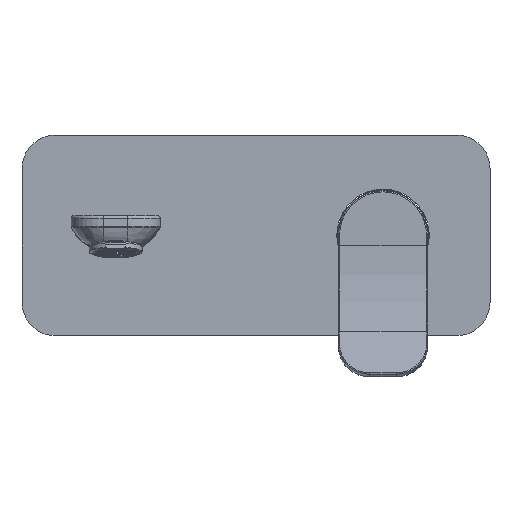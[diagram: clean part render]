
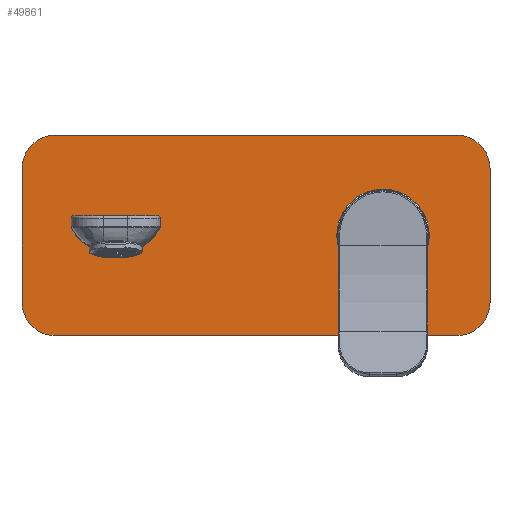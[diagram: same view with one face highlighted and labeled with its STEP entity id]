
A CAD part, top view. The second image highlights one B-rep face of the part: STEP entity #49861.
In plain terms, the highlighted planar face has unit normal (0, 0, 1).
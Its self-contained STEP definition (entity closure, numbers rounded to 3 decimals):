
#10953=CARTESIAN_POINT('',(87.5,64.5,82.05));
#10954=DIRECTION('',(0.,0.,1.));
#10955=DIRECTION('',(1.,0.,0.));
#10956=AXIS2_PLACEMENT_3D('',#10953,#10954,#10955);
#10958=DIRECTION('',(0.,-1.,0.));
#10959=VECTOR('',#10958,60.);
#10960=CARTESIAN_POINT('',(102.5,64.5,82.05));
#10961=LINE('',#10960,#10959);
#10962=CARTESIAN_POINT('',(87.5,4.5,82.05));
#10963=DIRECTION('',(0.,0.,1.));
#10964=DIRECTION('',(0.,-1.,0.));
#10965=AXIS2_PLACEMENT_3D('',#10962,#10963,#10964);
#10967=DIRECTION('',(-1.,0.,0.));
#10968=VECTOR('',#10967,180.);
#10969=CARTESIAN_POINT('',(87.5,-10.5,82.05));
#10970=LINE('',#10969,#10968);
#10971=CARTESIAN_POINT('',(-92.5,4.5,82.05));
#10972=DIRECTION('',(0.,0.,1.));
#10973=DIRECTION('',(-1.,0.,0.));
#10974=AXIS2_PLACEMENT_3D('',#10971,#10972,#10973);
#10976=DIRECTION('',(0.,1.,0.));
#10977=VECTOR('',#10976,60.);
#10978=CARTESIAN_POINT('',(-107.5,4.5,82.05));
#10979=LINE('',#10978,#10977);
#10980=CARTESIAN_POINT('',(-92.5,64.5,82.05));
#10981=DIRECTION('',(0.,0.,1.));
#10982=DIRECTION('',(0.,1.,0.));
#10983=AXIS2_PLACEMENT_3D('',#10980,#10981,#10982);
#10985=DIRECTION('',(1.,0.,0.));
#10986=VECTOR('',#10985,180.);
#10987=CARTESIAN_POINT('',(-92.5,79.5,82.05));
#10988=LINE('',#10987,#10986);
#10989=CARTESIAN_POINT('',(54.5,34.5,82.05));
#10990=DIRECTION('',(0.,0.,1.));
#10991=DIRECTION('',(0.,1.,0.));
#10992=AXIS2_PLACEMENT_3D('',#10989,#10990,#10991);
#10994=CARTESIAN_POINT('',(54.5,34.5,82.05));
#10995=DIRECTION('',(0.,0.,1.));
#10996=DIRECTION('',(0.,-1.,0.));
#10997=AXIS2_PLACEMENT_3D('',#10994,#10995,#10996);
#10999=DIRECTION('',(0.,1.,0.));
#11000=VECTOR('',#10999,3.748);
#11001=CARTESIAN_POINT('',(-45.55,38.252,82.05));
#11002=LINE('',#11001,#11000);
#11003=CARTESIAN_POINT('',(-46.55,42.,82.05));
#11004=DIRECTION('',(0.,0.,-1.));
#11005=DIRECTION('',(0.,1.,0.));
#11006=AXIS2_PLACEMENT_3D('',#11003,#11004,#11005);
#11008=DIRECTION('',(-1.,0.,0.));
#11009=VECTOR('',#11008,37.9);
#11010=CARTESIAN_POINT('',(-46.55,43.,82.05));
#11011=LINE('',#11010,#11009);
#11012=CARTESIAN_POINT('',(-84.45,42.,82.05));
#11013=DIRECTION('',(0.,0.,1.));
#11014=DIRECTION('',(0.,1.,0.));
#11015=AXIS2_PLACEMENT_3D('',#11012,#11013,#11014);
#11017=DIRECTION('',(0.,-1.,0.));
#11018=VECTOR('',#11017,3.748);
#11019=CARTESIAN_POINT('',(-85.45,42.,82.05));
#11020=LINE('',#11019,#11018);
#11021=CARTESIAN_POINT('',(-85.45,38.252,82.05));
#11022=CARTESIAN_POINT('',(-85.45,38.21,82.05));
#11023=CARTESIAN_POINT('',(-85.445,38.127,82.05));
#11024=CARTESIAN_POINT('',(-85.422,38.004,82.05));
#11025=CARTESIAN_POINT('',(-85.383,37.885,82.05));
#11026=CARTESIAN_POINT('',(-85.348,37.81,82.05));
#11027=CARTESIAN_POINT('',(-85.328,37.773,82.05));
#11029=CARTESIAN_POINT('',(-85.328,37.773,82.05));
#11030=CARTESIAN_POINT('',(-84.363,36.003,
82.05));
#11031=CARTESIAN_POINT('',(-81.954,32.722,
82.05));
#11032=CARTESIAN_POINT('',(-77.167,28.933,
82.05));
#11033=CARTESIAN_POINT('',(-71.548,26.544,
82.05));
#11034=CARTESIAN_POINT('',(-65.5,25.728,
82.05));
#11035=CARTESIAN_POINT('',(-59.452,26.544,
82.05));
#11036=CARTESIAN_POINT('',(-53.833,28.933,
82.05));
#11037=CARTESIAN_POINT('',(-49.046,32.722,
82.05));
#11038=CARTESIAN_POINT('',(-46.637,36.003,
82.05));
#11039=CARTESIAN_POINT('',(-45.672,37.773,82.05));
#11041=CARTESIAN_POINT('',(-45.672,37.773,82.05));
#11042=CARTESIAN_POINT('',(-45.652,37.81,82.05));
#11043=CARTESIAN_POINT('',(-45.617,37.885,82.05));
#11044=CARTESIAN_POINT('',(-45.578,38.004,82.05));
#11045=CARTESIAN_POINT('',(-45.555,38.127,82.05));
#11046=CARTESIAN_POINT('',(-45.55,38.21,82.05));
#11047=CARTESIAN_POINT('',(-45.55,38.252,82.05));
#40342=CARTESIAN_POINT('',(54.5,55.25,82.05));
#40343=CARTESIAN_POINT('',(54.5,13.75,82.05));
#40344=VERTEX_POINT('',#40342);
#40345=VERTEX_POINT('',#40343);
#40408=CARTESIAN_POINT('',(102.5,64.5,82.05));
#40409=CARTESIAN_POINT('',(87.5,79.5,82.05));
#40410=VERTEX_POINT('',#40408);
#40411=VERTEX_POINT('',#40409);
#40416=CARTESIAN_POINT('',(87.5,-10.5,82.05));
#40417=CARTESIAN_POINT('',(102.5,4.5,82.05));
#40418=VERTEX_POINT('',#40416);
#40419=VERTEX_POINT('',#40417);
#40424=CARTESIAN_POINT('',(-92.5,79.5,82.05));
#40425=CARTESIAN_POINT('',(-107.5,64.5,82.05));
#40426=VERTEX_POINT('',#40424);
#40427=VERTEX_POINT('',#40425);
#40432=CARTESIAN_POINT('',(-107.5,4.5,82.05));
#40433=CARTESIAN_POINT('',(-92.5,-10.5,82.05));
#40434=VERTEX_POINT('',#40432);
#40435=VERTEX_POINT('',#40433);
#40558=CARTESIAN_POINT('',(-45.55,38.252,82.05));
#40559=CARTESIAN_POINT('',(-45.55,42.,82.05));
#40560=VERTEX_POINT('',#40558);
#40561=VERTEX_POINT('',#40559);
#40562=CARTESIAN_POINT('',(-46.55,43.,82.05));
#40563=CARTESIAN_POINT('',(-84.45,43.,82.05));
#40564=VERTEX_POINT('',#40562);
#40565=VERTEX_POINT('',#40563);
#40566=CARTESIAN_POINT('',(-85.45,42.,82.05));
#40567=CARTESIAN_POINT('',(-85.45,38.252,82.05));
#40568=VERTEX_POINT('',#40566);
#40569=VERTEX_POINT('',#40567);
#40570=VERTEX_POINT('',#11029);
#40571=VERTEX_POINT('',#11039);
#49816=CARTESIAN_POINT('',(-2.5,34.5,82.05));
#49817=DIRECTION('',(0.,0.,-1.));
#49818=DIRECTION('',(0.,1.,0.));
#49819=AXIS2_PLACEMENT_3D('',#49816,#49817,#49818);
#49820=PLANE('',#49819);
#49822=ORIENTED_EDGE('',*,*,#49821,.F.);
#49824=ORIENTED_EDGE('',*,*,#49823,.T.);
#49826=ORIENTED_EDGE('',*,*,#49825,.F.);
#49828=ORIENTED_EDGE('',*,*,#49827,.T.);
#49830=ORIENTED_EDGE('',*,*,#49829,.F.);
#49832=ORIENTED_EDGE('',*,*,#49831,.T.);
#49834=ORIENTED_EDGE('',*,*,#49833,.F.);
#49836=ORIENTED_EDGE('',*,*,#49835,.T.);
#49837=EDGE_LOOP('',(#49822,#49824,#49826,#49828,#49830,#49832,#49834,#49836));
#49838=FACE_OUTER_BOUND('',#49837,.F.);
#49840=ORIENTED_EDGE('',*,*,#49839,.T.);
#49842=ORIENTED_EDGE('',*,*,#49841,.T.);
#49843=EDGE_LOOP('',(#49840,#49842));
#49844=FACE_BOUND('',#49843,.F.);
#49846=ORIENTED_EDGE('',*,*,#49845,.T.);
#49848=ORIENTED_EDGE('',*,*,#49847,.F.);
#49850=ORIENTED_EDGE('',*,*,#49849,.T.);
#49852=ORIENTED_EDGE('',*,*,#49851,.T.);
#49854=ORIENTED_EDGE('',*,*,#49853,.T.);
#49855=ORIENTED_EDGE('',*,*,#49806,.T.);
#49856=ORIENTED_EDGE('',*,*,#49717,.T.);
#49858=ORIENTED_EDGE('',*,*,#49857,.T.);
#49859=EDGE_LOOP('',(#49846,#49848,#49850,#49852,#49854,#49855,#49856,#49858));
#49860=FACE_BOUND('',#49859,.F.);
#49861=ADVANCED_FACE('',(#49838,#49844,#49860),#49820,.F.);
#10957=CIRCLE('',#10956,15.);
#10966=CIRCLE('',#10965,15.);
#10975=CIRCLE('',#10974,15.);
#10984=CIRCLE('',#10983,15.);
#10993=CIRCLE('',#10992,20.75);
#10998=CIRCLE('',#10997,20.75);
#11007=CIRCLE('',#11006,1.);
#11016=CIRCLE('',#11015,1.);
#11028=B_SPLINE_CURVE_WITH_KNOTS('',3,(#11021,#11022,#11023,#11024,#11025,
#11026,#11027),.UNSPECIFIED.,.F.,.F.,(4,1,1,1,4),(0.,0.25,0.5,0.75,
1.),.UNSPECIFIED.);
#11040=B_SPLINE_CURVE_WITH_KNOTS('',3,(#11029,#11030,#11031,#11032,#11033,
#11034,#11035,#11036,#11037,#11038,#11039),.UNSPECIFIED.,.F.,.F.,(4,1,1,1,1,1,1,
1,4),(0.,0.125,0.25,0.375,0.5,0.625,0.75,0.875,1.),
.UNSPECIFIED.);
#11048=B_SPLINE_CURVE_WITH_KNOTS('',3,(#11041,#11042,#11043,#11044,#11045,
#11046,#11047),.UNSPECIFIED.,.F.,.F.,(4,1,1,1,4),(0.,0.25,0.5,0.75,
1.),.UNSPECIFIED.);
#49717=EDGE_CURVE('',#40570,#40571,#11040,.T.);
#49806=EDGE_CURVE('',#40569,#40570,#11028,.T.);
#49821=EDGE_CURVE('',#40410,#40411,#10957,.T.);
#49823=EDGE_CURVE('',#40410,#40419,#10961,.T.);
#49825=EDGE_CURVE('',#40418,#40419,#10966,.T.);
#49827=EDGE_CURVE('',#40418,#40435,#10970,.T.);
#49829=EDGE_CURVE('',#40434,#40435,#10975,.T.);
#49831=EDGE_CURVE('',#40434,#40427,#10979,.T.);
#49833=EDGE_CURVE('',#40426,#40427,#10984,.T.);
#49835=EDGE_CURVE('',#40426,#40411,#10988,.T.);
#49839=EDGE_CURVE('',#40344,#40345,#10993,.T.);
#49841=EDGE_CURVE('',#40345,#40344,#10998,.T.);
#49845=EDGE_CURVE('',#40560,#40561,#11002,.T.);
#49847=EDGE_CURVE('',#40564,#40561,#11007,.T.);
#49849=EDGE_CURVE('',#40564,#40565,#11011,.T.);
#49851=EDGE_CURVE('',#40565,#40568,#11016,.T.);
#49853=EDGE_CURVE('',#40568,#40569,#11020,.T.);
#49857=EDGE_CURVE('',#40571,#40560,#11048,.T.);
